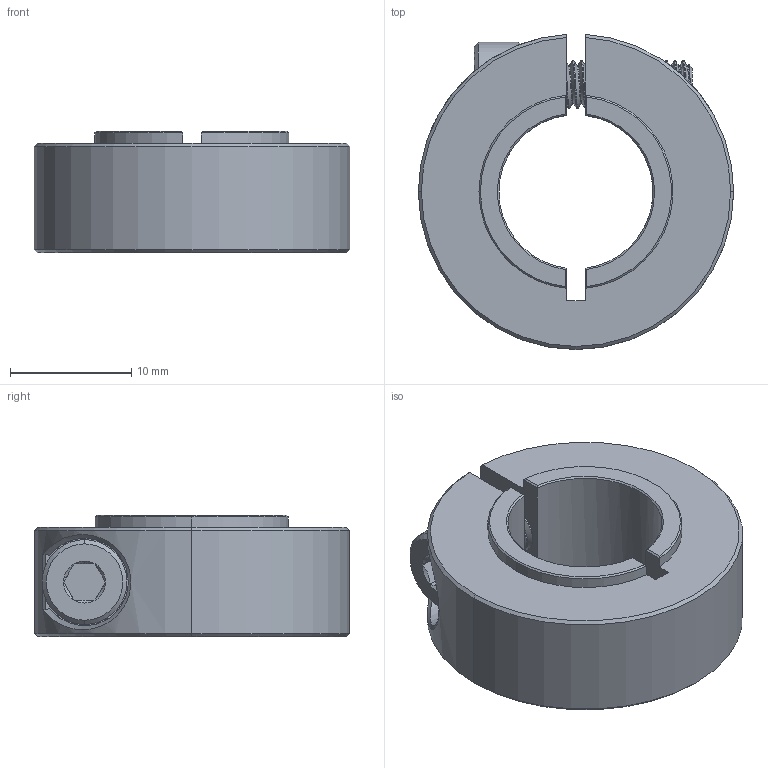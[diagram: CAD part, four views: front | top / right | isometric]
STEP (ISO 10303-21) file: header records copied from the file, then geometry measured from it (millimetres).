
FILE_DESCRIPTION (( 'STEP AP203' ), '1' );
FILE_NAME ('2910-0001-0500 assembly.STEP', '2021-04-16T19:15:21', ( '' ), ( '' ), 'SwSTEP 2.0', 'SolidWorks 2016', '' );
FILE_SCHEMA (( 'CONFIG_CONTROL_DESIGN' ));
Length unit declared in the file: millimetre
Products named in the file (3): 2800-0004-0014_90128A207; 2910-0001-0500 assembly; 2910-0001-0500
Assembly tree (2 placements, depth 2):
  2910-0001-0500 assembly
    2910-0001-0500
    2800-0004-0014_90128A207
Bounding box: 26 x 25.98 x 10 mm (x, y, z)
Volume: 3516 mm3; surface area: 2739.3 mm2
Topology: 2 solids, 2 shells, 222 faces, 614 edges, 399 vertices
Faces by surface type: cylinder 153, cone 30, plane 25, bspline 14
Entity records: 22581 total; most frequent: CARTESIAN_POINT 17587, ORIENTED_EDGE 1228, DIRECTION 751, EDGE_CURVE 614, VERTEX_POINT 399, AXIS2_PLACEMENT_3D 279, EDGE_LOOP 231, FACE_OUTER_BOUND 222
